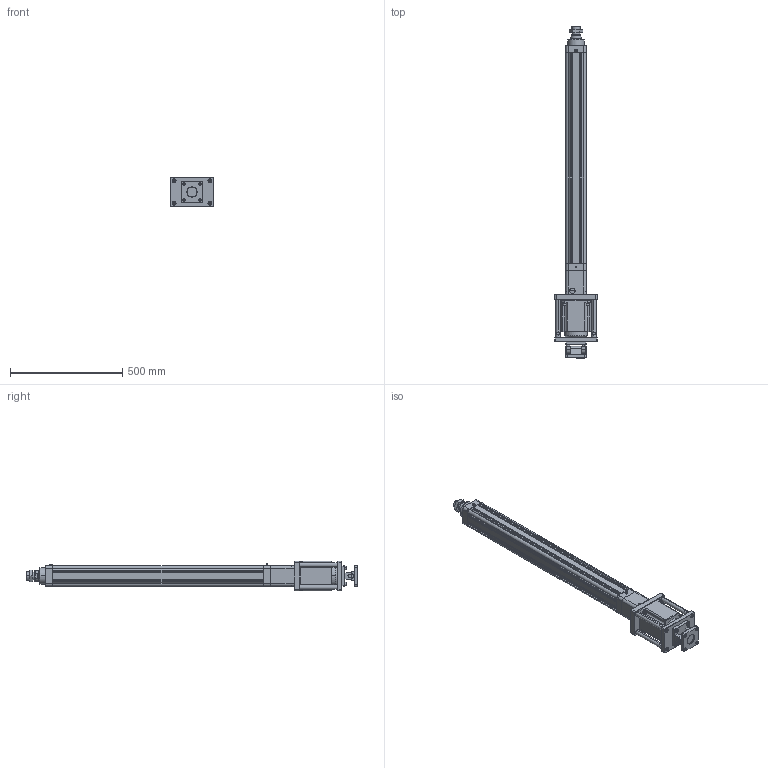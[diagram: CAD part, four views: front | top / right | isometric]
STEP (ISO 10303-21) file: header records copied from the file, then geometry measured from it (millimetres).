
FILE_DESCRIPTION((''),'2;1');
FILE_NAME('HE80-D-P_ASM','2020-05-14T',('ASUS20200'),(''),'CREO PARAMETRIC BY PTC INC, 2014190','CREO PARAMETRIC BY PTC INC, 2014190','');
FILE_SCHEMA(('CONFIG_CONTROL_DESIGN'));
Length unit declared in the file: millimetre
Products named in the file (29): HE80-D-P-001-X1; HE80-D-P-002-X1; HE80-D-P-003-X1; 30304J; YZ-M6X1; SLM-01; JDB506030; HE80-100-D-P-X1_ASM; HE80-D-009-X1; HE80-D-010-X1-130N; M10X110; SKT-20; M8X20; 130ST-M10010; JX6X6X40; TD-8; M8X40; HE80-D-P-005-X1; HE80-D-P-004-X1; HE80-D-P-008-X1; LGLM-M10-25; HE80-FB-LG; F-HE80FB; M10X30; F-SE80CB; F-SE80CB-XD; F-SE80CB_ASM; F-SE80CA; HE80-D-P_ASM
Assembly tree (59 placements, depth 3):
  HE80-D-P_ASM
    HE80-100-D-P-X1_ASM
      HE80-D-P-001-X1
      HE80-D-P-002-X1
      HE80-D-P-003-X1
      30304J  x2
      YZ-M6X1
      SLM-01
      JDB506030
    HE80-D-009-X1
    HE80-D-010-X1-130N
    M10X110  x4
    SKT-20  x2
    M8X20  x4
    130ST-M10010
    JX6X6X40
    TD-8  x4
    M8X40  x4
    HE80-D-P-005-X1
    HE80-D-P-004-X1
    HE80-D-P-008-X1
    LGLM-M10-25  x4
    HE80-FB-LG  x4
    F-HE80FB
    M10X30  x12
    F-SE80CB_ASM
      F-SE80CB
      F-SE80CB-XD
    F-SE80CA
Bounding box: 190 x 1479 x 130.01 mm (x, y, z)
Volume: 7349004.1 mm3; surface area: 1772019.3 mm2
Topology: 57 solids, 92 shells, 2604 faces, 5953 edges, 3586 vertices
Faces by surface type: plane 908, cylinder 762, cone 754, torus 146, sphere 30, bspline 4
Entity records: 55296 total; most frequent: CARTESIAN_POINT 10452, DIRECTION 9968, ORIENTED_EDGE 8580, EDGE_CURVE 4345, AXIS2_PLACEMENT_3D 3873, VERTEX_POINT 2618, VECTOR 2222, LINE 2222
